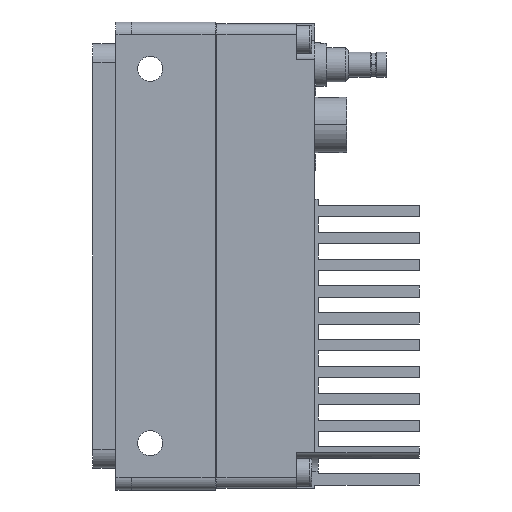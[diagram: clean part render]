
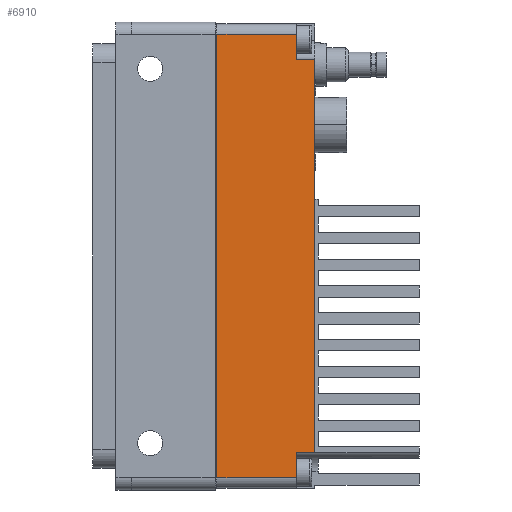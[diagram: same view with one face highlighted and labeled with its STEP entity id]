
A CAD part, left-side view. The second image highlights one B-rep face of the part: STEP entity #6910.
In plain terms, the highlighted planar face has unit normal (-1, 0, 0).
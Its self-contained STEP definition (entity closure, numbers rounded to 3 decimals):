
#127 = ORIENTED_EDGE ( 'NONE', *, *, #3622, .F. ) ;
#659 = EDGE_CURVE ( 'NONE', #1474, #13254, #6546, .T. ) ;
#666 = DIRECTION ( 'NONE',  ( 0., -1., 0. ) ) ;
#744 = VERTEX_POINT ( 'NONE', #20068 ) ;
#747 = EDGE_CURVE ( 'NONE', #3422, #18792, #3144, .T. ) ;
#1076 = EDGE_CURVE ( 'NONE', #10186, #13254, #3588, .T. ) ;
#1467 = EDGE_CURVE ( 'NONE', #10186, #22656, #5570, .T. ) ;
#1474 = VERTEX_POINT ( 'NONE', #4440 ) ;
#1845 = ORIENTED_EDGE ( 'NONE', *, *, #11467, .T. ) ;
#2255 = CARTESIAN_POINT ( 'NONE',  ( -47.2, 2.5, 31.5 ) ) ;
#2987 = VECTOR ( 'NONE', #6277, 1000. ) ;
#3144 = LINE ( 'NONE', #18536, #21975 ) ;
#3222 = CARTESIAN_POINT ( 'NONE',  ( -47.2, 12., 35.5 ) ) ;
#3422 = VERTEX_POINT ( 'NONE', #15311 ) ;
#3588 = LINE ( 'NONE', #3222, #14514 ) ;
#3622 = EDGE_CURVE ( 'NONE', #22656, #17157, #5138, .T. ) ;
#3857 = CARTESIAN_POINT ( 'NONE',  ( -47.2, -0.5, 31.5 ) ) ;
#4055 = LINE ( 'NONE', #20231, #14537 ) ;
#4440 = CARTESIAN_POINT ( 'NONE',  ( -47.2, 15.2, -35.5 ) ) ;
#4759 = CARTESIAN_POINT ( 'NONE',  ( -47.2, 3., 31.5 ) ) ;
#5138 = LINE ( 'NONE', #4759, #11689 ) ;
#5570 = LINE ( 'NONE', #18697, #13454 ) ;
#6170 = DIRECTION ( 'NONE',  ( 0., 0., -1. ) ) ;
#6205 = CARTESIAN_POINT ( 'NONE',  ( -47.2, 2.5, -35.5 ) ) ;
#6277 = DIRECTION ( 'NONE',  ( 0., -1., 0. ) ) ;
#6546 = LINE ( 'NONE', #9876, #19670 ) ;
#6665 = ORIENTED_EDGE ( 'NONE', *, *, #10667, .T. ) ;
#6727 = DIRECTION ( 'NONE',  ( 0., -1., 0. ) ) ;
#6910 = ADVANCED_FACE ( 'NONE', ( #10518 ), #10112, .F. ) ;
#7878 = DIRECTION ( 'NONE',  ( 0., 0., -1. ) ) ;
#9876 = CARTESIAN_POINT ( 'NONE',  ( -47.2, 15.2, 55.5 ) ) ;
#10112 = PLANE ( 'NONE',  #21574 ) ;
#10186 = VERTEX_POINT ( 'NONE', #12090 ) ;
#10518 = FACE_OUTER_BOUND ( 'NONE', #11538, .T. ) ;
#10667 = EDGE_CURVE ( 'NONE', #1474, #18792, #16433, .T. ) ;
#11214 = ORIENTED_EDGE ( 'NONE', *, *, #21410, .T. ) ;
#11467 = EDGE_CURVE ( 'NONE', #744, #17157, #12027, .T. ) ;
#11538 = EDGE_LOOP ( 'NONE', ( #15742, #11214, #1845, #127, #21407, #22152, #16508, #6665 ) ) ;
#11689 = VECTOR ( 'NONE', #666, 1000. ) ;
#12027 = LINE ( 'NONE', #21080, #16733 ) ;
#12090 = CARTESIAN_POINT ( 'NONE',  ( -47.2, 2.5, 35.5 ) ) ;
#12642 = CARTESIAN_POINT ( 'NONE',  ( -47.2, 12., -35.5 ) ) ;
#13254 = VERTEX_POINT ( 'NONE', #23173 ) ;
#13454 = VECTOR ( 'NONE', #7878, 1000. ) ;
#14514 = VECTOR ( 'NONE', #16793, 1000. ) ;
#14537 = VECTOR ( 'NONE', #6727, 1000. ) ;
#15311 = CARTESIAN_POINT ( 'NONE',  ( -47.2, 2.5, -31.5 ) ) ;
#15742 = ORIENTED_EDGE ( 'NONE', *, *, #747, .F. ) ;
#16433 = LINE ( 'NONE', #12642, #2987 ) ;
#16508 = ORIENTED_EDGE ( 'NONE', *, *, #659, .F. ) ;
#16733 = VECTOR ( 'NONE', #21835, 1000. ) ;
#16793 = DIRECTION ( 'NONE',  ( 0., 1., 0. ) ) ;
#17157 = VERTEX_POINT ( 'NONE', #3857 ) ;
#17408 = DIRECTION ( 'NONE',  ( 0., 0., 1. ) ) ;
#17641 = DIRECTION ( 'NONE',  ( 1., 0., 0. ) ) ;
#18536 = CARTESIAN_POINT ( 'NONE',  ( -47.2, 2.5, -37.2 ) ) ;
#18697 = CARTESIAN_POINT ( 'NONE',  ( -47.2, 2.5, 31.5 ) ) ;
#18742 = CARTESIAN_POINT ( 'NONE',  ( -47.2, 12., 55.5 ) ) ;
#18792 = VERTEX_POINT ( 'NONE', #6205 ) ;
#19670 = VECTOR ( 'NONE', #17408, 1000. ) ;
#20068 = CARTESIAN_POINT ( 'NONE',  ( -47.2, -0.5, -31.5 ) ) ;
#20231 = CARTESIAN_POINT ( 'NONE',  ( -47.2, 2.5, -31.5 ) ) ;
#21080 = CARTESIAN_POINT ( 'NONE',  ( -47.2, -0.5, 55.5 ) ) ;
#21407 = ORIENTED_EDGE ( 'NONE', *, *, #1467, .F. ) ;
#21410 = EDGE_CURVE ( 'NONE', #3422, #744, #4055, .T. ) ;
#21574 = AXIS2_PLACEMENT_3D ( 'NONE', #18742, #17641, #23324 ) ;
#21835 = DIRECTION ( 'NONE',  ( 0., 0., 1. ) ) ;
#21975 = VECTOR ( 'NONE', #6170, 1000. ) ;
#22152 = ORIENTED_EDGE ( 'NONE', *, *, #1076, .T. ) ;
#22656 = VERTEX_POINT ( 'NONE', #2255 ) ;
#23173 = CARTESIAN_POINT ( 'NONE',  ( -47.2, 15.2, 35.5 ) ) ;
#23324 = DIRECTION ( 'NONE',  ( 0., -1., 0. ) ) ;
